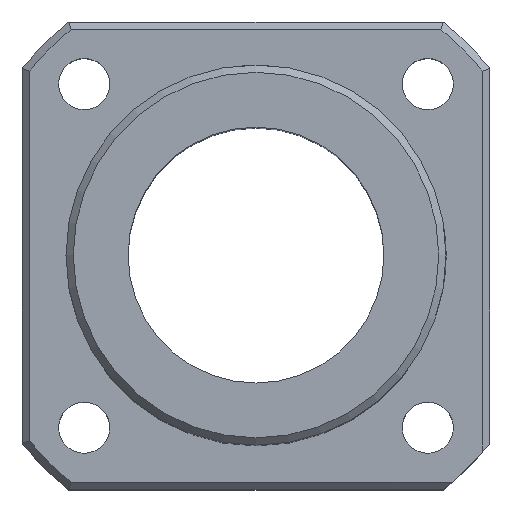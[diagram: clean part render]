
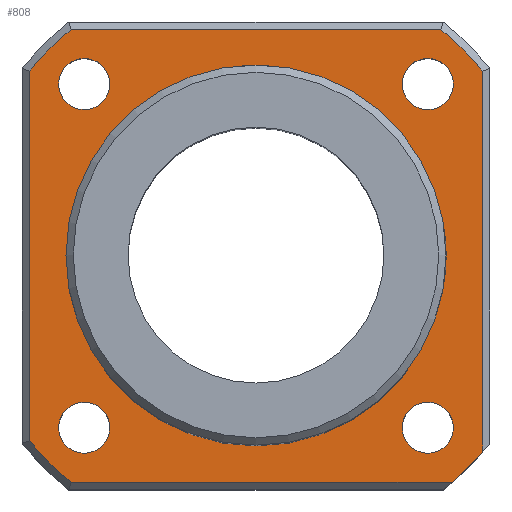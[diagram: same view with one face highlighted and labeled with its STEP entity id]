
A CAD part, top view. The second image highlights one B-rep face of the part: STEP entity #808.
In plain terms, the highlighted planar face has unit normal (0, 0, 1).
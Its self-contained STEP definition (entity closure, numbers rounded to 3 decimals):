
#531=CARTESIAN_POINT('',(26.833,-31.0,18.0));
#532=VERTEX_POINT('',#531);
#540=CARTESIAN_POINT('',(-25.278,-31.0,18.0));
#541=VERTEX_POINT('',#540);
#542=CARTESIAN_POINT('',(26.833,-31.0,18.0));
#543=DIRECTION('',(-1.0,0.0,0.0));
#544=VECTOR('',#543,52.111);
#545=LINE('',#542,#544);
#546=EDGE_CURVE('',#532,#541,#545,.T.);
#571=CARTESIAN_POINT('',(-31.,-25.278,18.0));
#572=VERTEX_POINT('',#571);
#573=CARTESIAN_POINT('',(0.0,0.0,18.0));
#574=DIRECTION('',(0.0,0.0,-1.0));
#575=DIRECTION('',(-1.0,0.0,0.0));
#576=AXIS2_PLACEMENT_3D('',#573,#574,#575);
#577=CIRCLE('',#576,40.);
#578=EDGE_CURVE('',#541,#572,#577,.T.);
#603=CARTESIAN_POINT('',(-31.0,25.278,18.0));
#604=VERTEX_POINT('',#603);
#605=CARTESIAN_POINT('',(-31.,-25.278,18.0));
#606=DIRECTION('',(0.0,1.0,0.0));
#607=VECTOR('',#606,50.557);
#608=LINE('',#605,#607);
#609=EDGE_CURVE('',#572,#604,#608,.T.);
#628=CARTESIAN_POINT('',(-25.278,31.0,18.0));
#629=VERTEX_POINT('',#628);
#630=CARTESIAN_POINT('',(0.0,0.0,18.0));
#631=DIRECTION('',(0.0,0.0,-1.0));
#632=DIRECTION('',(-1.0,0.0,0.0));
#633=AXIS2_PLACEMENT_3D('',#630,#631,#632);
#634=CIRCLE('',#633,40.);
#635=EDGE_CURVE('',#604,#629,#634,.T.);
#654=CARTESIAN_POINT('',(25.278,31.0,18.0));
#655=VERTEX_POINT('',#654);
#656=CARTESIAN_POINT('',(-25.278,31.0,18.0));
#657=DIRECTION('',(1.0,0.0,0.0));
#658=VECTOR('',#657,50.557);
#659=LINE('',#656,#658);
#660=EDGE_CURVE('',#629,#655,#659,.T.);
#679=CARTESIAN_POINT('',(31.,25.278,18.0));
#680=VERTEX_POINT('',#679);
#681=CARTESIAN_POINT('',(0.0,0.0,18.0));
#682=DIRECTION('',(0.0,0.0,-1.0));
#683=DIRECTION('',(1.0,0.0,0.0));
#684=AXIS2_PLACEMENT_3D('',#681,#682,#683);
#685=CIRCLE('',#684,40.);
#686=EDGE_CURVE('',#655,#680,#685,.T.);
#705=CARTESIAN_POINT('',(31.0,-26.833,18.0));
#706=VERTEX_POINT('',#705);
#723=CARTESIAN_POINT('',(31.,25.278,18.0));
#724=DIRECTION('',(0.0,-1.0,0.0));
#725=VECTOR('',#724,52.111);
#726=LINE('',#723,#725);
#727=EDGE_CURVE('',#680,#706,#726,.T.);
#732=CARTESIAN_POINT('',(0.,0.,18.0));
#733=DIRECTION('',(0.0,0.0,1.0));
#734=DIRECTION('',(1.0,0.0,0.0));
#735=AXIS2_PLACEMENT_3D('',#732,#733,#734);
#736=PLANE('',#735);
#737=ORIENTED_EDGE('',*,*,#727,.F.);
#738=ORIENTED_EDGE('',*,*,#686,.F.);
#739=ORIENTED_EDGE('',*,*,#660,.F.);
#740=ORIENTED_EDGE('',*,*,#635,.F.);
#741=ORIENTED_EDGE('',*,*,#609,.F.);
#742=ORIENTED_EDGE('',*,*,#578,.F.);
#743=ORIENTED_EDGE('',*,*,#546,.F.);
#744=CARTESIAN_POINT('',(0.0,0.0,18.0));
#745=DIRECTION('',(0.0,0.0,-1.0));
#746=DIRECTION('',(1.0,0.0,0.0));
#747=AXIS2_PLACEMENT_3D('',#744,#745,#746);
#748=CIRCLE('',#747,41.);
#749=EDGE_CURVE('',#706,#532,#748,.T.);
#750=ORIENTED_EDGE('',*,*,#749,.F.);
#751=EDGE_LOOP('',(#737,#738,#739,#740,#741,#742,#743,#750));
#752=FACE_OUTER_BOUND('',#751,.T.);
#753=CARTESIAN_POINT('',(26.0,0.,18.0));
#754=VERTEX_POINT('',#753);
#755=CARTESIAN_POINT('',(0.0,0.0,18.0));
#756=DIRECTION('',(0.0,0.0,-1.0));
#757=DIRECTION('',(-1.0,0.0,0.0));
#758=AXIS2_PLACEMENT_3D('',#755,#756,#757);
#759=CIRCLE('',#758,26.0);
#760=EDGE_CURVE('',#754,#754,#759,.T.);
#761=ORIENTED_EDGE('',*,*,#760,.T.);
#762=EDGE_LOOP('',(#761));
#763=FACE_BOUND('',#762,.T.);
#764=CARTESIAN_POINT('',(-27.0,23.5,18.));
#765=VERTEX_POINT('',#764);
#766=CARTESIAN_POINT('',(-23.5,23.5,18.));
#767=DIRECTION('',(0.0,0.0,-1.0));
#768=DIRECTION('',(1.0,0.0,0.0));
#769=AXIS2_PLACEMENT_3D('',#766,#767,#768);
#770=CIRCLE('',#769,3.5);
#771=EDGE_CURVE('',#765,#765,#770,.T.);
#772=ORIENTED_EDGE('',*,*,#771,.T.);
#773=EDGE_LOOP('',(#772));
#774=FACE_BOUND('',#773,.T.);
#775=CARTESIAN_POINT('',(20.0,23.5,18.));
#776=VERTEX_POINT('',#775);
#777=CARTESIAN_POINT('',(23.5,23.5,18.));
#778=DIRECTION('',(0.0,0.0,-1.0));
#779=DIRECTION('',(1.0,0.0,0.0));
#780=AXIS2_PLACEMENT_3D('',#777,#778,#779);
#781=CIRCLE('',#780,3.5);
#782=EDGE_CURVE('',#776,#776,#781,.T.);
#783=ORIENTED_EDGE('',*,*,#782,.T.);
#784=EDGE_LOOP('',(#783));
#785=FACE_BOUND('',#784,.T.);
#786=CARTESIAN_POINT('',(-27.0,-23.5,18.));
#787=VERTEX_POINT('',#786);
#788=CARTESIAN_POINT('',(-23.5,-23.5,18.));
#789=DIRECTION('',(0.0,0.0,-1.0));
#790=DIRECTION('',(1.0,0.0,0.0));
#791=AXIS2_PLACEMENT_3D('',#788,#789,#790);
#792=CIRCLE('',#791,3.5);
#793=EDGE_CURVE('',#787,#787,#792,.T.);
#794=ORIENTED_EDGE('',*,*,#793,.T.);
#795=EDGE_LOOP('',(#794));
#796=FACE_BOUND('',#795,.T.);
#797=CARTESIAN_POINT('',(20.0,-23.5,18.));
#798=VERTEX_POINT('',#797);
#799=CARTESIAN_POINT('',(23.5,-23.5,18.));
#800=DIRECTION('',(0.0,0.0,-1.0));
#801=DIRECTION('',(1.0,0.0,0.0));
#802=AXIS2_PLACEMENT_3D('',#799,#800,#801);
#803=CIRCLE('',#802,3.5);
#804=EDGE_CURVE('',#798,#798,#803,.T.);
#805=ORIENTED_EDGE('',*,*,#804,.T.);
#806=EDGE_LOOP('',(#805));
#807=FACE_BOUND('',#806,.T.);
#808=ADVANCED_FACE('',(#752,#763,#774,#785,#796,#807),#736,.T.);
